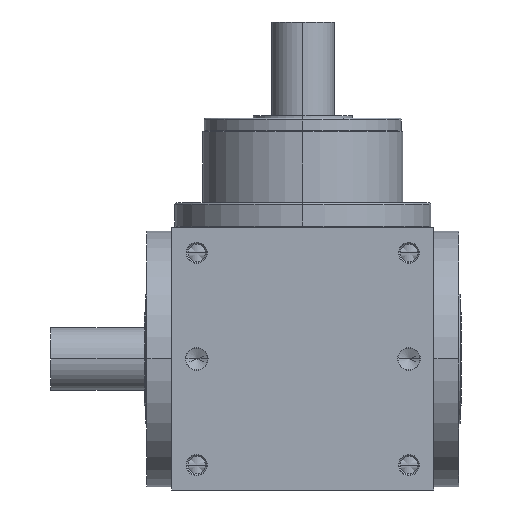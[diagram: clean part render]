
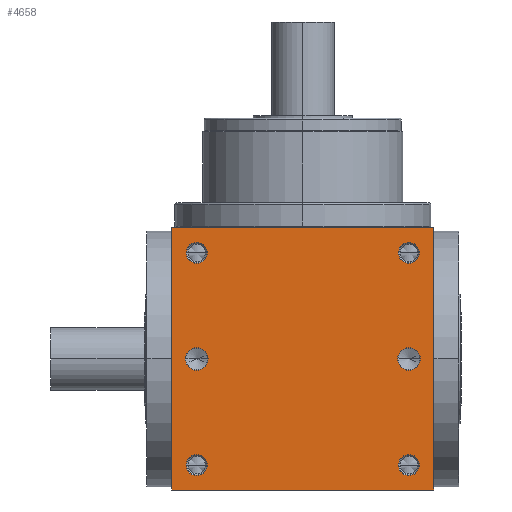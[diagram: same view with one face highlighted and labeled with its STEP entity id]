
A CAD part, front view. The second image highlights one B-rep face of the part: STEP entity #4658.
In plain terms, the highlighted planar face has unit normal (0, -1, 0).
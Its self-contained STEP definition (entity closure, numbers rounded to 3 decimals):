
#5=DIRECTION('',(1.,0.,0.));
#6=VECTOR('',#5,210.);
#7=CARTESIAN_POINT('',(-105.,-105.,-105.));
#8=LINE('',#7,#6);
#155=DIRECTION('',(0.,0.,1.));
#156=VECTOR('',#155,210.);
#157=CARTESIAN_POINT('',(105.,-105.,-105.));
#158=LINE('',#157,#156);
#209=DIRECTION('',(0.,0.,1.));
#210=VECTOR('',#209,210.);
#211=CARTESIAN_POINT('',(-105.,-105.,-105.));
#212=LINE('',#211,#210);
#213=CARTESIAN_POINT('',(85.,-105.,85.));
#214=DIRECTION('',(0.,1.,0.));
#215=DIRECTION('',(-1.,0.,0.));
#216=AXIS2_PLACEMENT_3D('',#213,#214,#215);
#218=CARTESIAN_POINT('',(85.,-105.,85.));
#219=DIRECTION('',(0.,1.,0.));
#220=DIRECTION('',(1.,0.,0.));
#221=AXIS2_PLACEMENT_3D('',#218,#219,#220);
#223=CARTESIAN_POINT('',(-85.,-105.,85.));
#224=DIRECTION('',(0.,1.,0.));
#225=DIRECTION('',(-1.,0.,0.));
#226=AXIS2_PLACEMENT_3D('',#223,#224,#225);
#228=CARTESIAN_POINT('',(-85.,-105.,85.));
#229=DIRECTION('',(0.,1.,0.));
#230=DIRECTION('',(1.,0.,0.));
#231=AXIS2_PLACEMENT_3D('',#228,#229,#230);
#233=CARTESIAN_POINT('',(85.,-105.,-85.));
#234=DIRECTION('',(0.,1.,0.));
#235=DIRECTION('',(-1.,0.,0.));
#236=AXIS2_PLACEMENT_3D('',#233,#234,#235);
#238=CARTESIAN_POINT('',(85.,-105.,-85.));
#239=DIRECTION('',(0.,1.,0.));
#240=DIRECTION('',(1.,0.,0.));
#241=AXIS2_PLACEMENT_3D('',#238,#239,#240);
#243=CARTESIAN_POINT('',(-85.,-105.,-85.));
#244=DIRECTION('',(0.,1.,0.));
#245=DIRECTION('',(-1.,0.,0.));
#246=AXIS2_PLACEMENT_3D('',#243,#244,#245);
#248=CARTESIAN_POINT('',(-85.,-105.,-85.));
#249=DIRECTION('',(0.,1.,0.));
#250=DIRECTION('',(1.,0.,0.));
#251=AXIS2_PLACEMENT_3D('',#248,#249,#250);
#253=CARTESIAN_POINT('',(-85.,-105.,0.));
#254=DIRECTION('',(0.,1.,0.));
#255=DIRECTION('',(1.,0.,0.));
#256=AXIS2_PLACEMENT_3D('',#253,#254,#255);
#258=CARTESIAN_POINT('',(-85.,-105.,0.));
#259=DIRECTION('',(0.,1.,0.));
#260=DIRECTION('',(-1.,0.,0.));
#261=AXIS2_PLACEMENT_3D('',#258,#259,#260);
#263=CARTESIAN_POINT('',(85.,-105.,0.));
#264=DIRECTION('',(0.,1.,0.));
#265=DIRECTION('',(1.,0.,0.));
#266=AXIS2_PLACEMENT_3D('',#263,#264,#265);
#268=CARTESIAN_POINT('',(85.,-105.,0.));
#269=DIRECTION('',(0.,1.,0.));
#270=DIRECTION('',(-1.,0.,0.));
#271=AXIS2_PLACEMENT_3D('',#268,#269,#270);
#285=DIRECTION('',(1.,0.,0.));
#286=VECTOR('',#285,210.);
#287=CARTESIAN_POINT('',(-105.,-105.,105.));
#288=LINE('',#287,#286);
#3742=CARTESIAN_POINT('',(-105.,-105.,-105.));
#3744=VERTEX_POINT('',#3742);
#3745=CARTESIAN_POINT('',(105.,-105.,-105.));
#3746=VERTEX_POINT('',#3745);
#3750=CARTESIAN_POINT('',(-105.,-105.,105.));
#3752=VERTEX_POINT('',#3750);
#3753=CARTESIAN_POINT('',(105.,-105.,105.));
#3754=VERTEX_POINT('',#3753);
#3921=CARTESIAN_POINT('',(76.6,-105.,85.));
#3922=CARTESIAN_POINT('',(93.4,-105.,85.));
#3923=VERTEX_POINT('',#3921);
#3924=VERTEX_POINT('',#3922);
#3929=CARTESIAN_POINT('',(-93.4,-105.,85.));
#3930=CARTESIAN_POINT('',(-76.6,-105.,85.));
#3931=VERTEX_POINT('',#3929);
#3932=VERTEX_POINT('',#3930);
#3937=CARTESIAN_POINT('',(76.6,-105.,-85.));
#3938=CARTESIAN_POINT('',(93.4,-105.,-85.));
#3939=VERTEX_POINT('',#3937);
#3940=VERTEX_POINT('',#3938);
#3945=CARTESIAN_POINT('',(-93.4,-105.,-85.));
#3946=CARTESIAN_POINT('',(-76.6,-105.,-85.));
#3947=VERTEX_POINT('',#3945);
#3948=VERTEX_POINT('',#3946);
#4287=CARTESIAN_POINT('',(-75.95,-105.,
0.));
#4288=CARTESIAN_POINT('',(-94.05,-105.,0.));
#4289=VERTEX_POINT('',#4287);
#4290=VERTEX_POINT('',#4288);
#4295=CARTESIAN_POINT('',(94.05,-105.,0.));
#4296=CARTESIAN_POINT('',(75.95,-105.,0.));
#4297=VERTEX_POINT('',#4295);
#4298=VERTEX_POINT('',#4296);
#4610=CARTESIAN_POINT('',(-105.,-105.,-105.));
#4611=DIRECTION('',(0.,-1.,0.));
#4612=DIRECTION('',(1.,0.,0.));
#4613=AXIS2_PLACEMENT_3D('',#4610,#4611,#4612);
#4614=PLANE('',#4613);
#4615=ORIENTED_EDGE('',*,*,#4450,.F.);
#4616=ORIENTED_EDGE('',*,*,#4493,.T.);
#4618=ORIENTED_EDGE('',*,*,#4617,.T.);
#4619=ORIENTED_EDGE('',*,*,#4572,.F.);
#4620=EDGE_LOOP('',(#4615,#4616,#4618,#4619));
#4621=FACE_OUTER_BOUND('',#4620,.F.);
#4623=ORIENTED_EDGE('',*,*,#4622,.F.);
#4625=ORIENTED_EDGE('',*,*,#4624,.F.);
#4626=EDGE_LOOP('',(#4623,#4625));
#4627=FACE_BOUND('',#4626,.F.);
#4629=ORIENTED_EDGE('',*,*,#4628,.F.);
#4631=ORIENTED_EDGE('',*,*,#4630,.F.);
#4632=EDGE_LOOP('',(#4629,#4631));
#4633=FACE_BOUND('',#4632,.F.);
#4635=ORIENTED_EDGE('',*,*,#4634,.F.);
#4637=ORIENTED_EDGE('',*,*,#4636,.F.);
#4638=EDGE_LOOP('',(#4635,#4637));
#4639=FACE_BOUND('',#4638,.F.);
#4641=ORIENTED_EDGE('',*,*,#4640,.F.);
#4643=ORIENTED_EDGE('',*,*,#4642,.F.);
#4644=EDGE_LOOP('',(#4641,#4643));
#4645=FACE_BOUND('',#4644,.F.);
#4647=ORIENTED_EDGE('',*,*,#4646,.F.);
#4649=ORIENTED_EDGE('',*,*,#4648,.F.);
#4650=EDGE_LOOP('',(#4647,#4649));
#4651=FACE_BOUND('',#4650,.F.);
#4653=ORIENTED_EDGE('',*,*,#4652,.F.);
#4655=ORIENTED_EDGE('',*,*,#4654,.F.);
#4656=EDGE_LOOP('',(#4653,#4655));
#4657=FACE_BOUND('',#4656,.F.);
#4658=ADVANCED_FACE('',(#4621,#4627,#4633,#4639,#4645,#4651,#4657),#4614,.T.);
#217=CIRCLE('',#216,8.4);
#222=CIRCLE('',#221,8.4);
#227=CIRCLE('',#226,8.4);
#232=CIRCLE('',#231,8.4);
#237=CIRCLE('',#236,8.4);
#242=CIRCLE('',#241,8.4);
#247=CIRCLE('',#246,8.4);
#252=CIRCLE('',#251,8.4);
#257=CIRCLE('',#256,9.05);
#262=CIRCLE('',#261,9.05);
#267=CIRCLE('',#266,9.05);
#272=CIRCLE('',#271,9.05);
#4450=EDGE_CURVE('',#3744,#3746,#8,.T.);
#4493=EDGE_CURVE('',#3744,#3752,#212,.T.);
#4572=EDGE_CURVE('',#3746,#3754,#158,.T.);
#4617=EDGE_CURVE('',#3752,#3754,#288,.T.);
#4622=EDGE_CURVE('',#3923,#3924,#217,.T.);
#4624=EDGE_CURVE('',#3924,#3923,#222,.T.);
#4628=EDGE_CURVE('',#3931,#3932,#227,.T.);
#4630=EDGE_CURVE('',#3932,#3931,#232,.T.);
#4634=EDGE_CURVE('',#3939,#3940,#237,.T.);
#4636=EDGE_CURVE('',#3940,#3939,#242,.T.);
#4640=EDGE_CURVE('',#3947,#3948,#247,.T.);
#4642=EDGE_CURVE('',#3948,#3947,#252,.T.);
#4646=EDGE_CURVE('',#4289,#4290,#257,.T.);
#4648=EDGE_CURVE('',#4290,#4289,#262,.T.);
#4652=EDGE_CURVE('',#4297,#4298,#267,.T.);
#4654=EDGE_CURVE('',#4298,#4297,#272,.T.);
